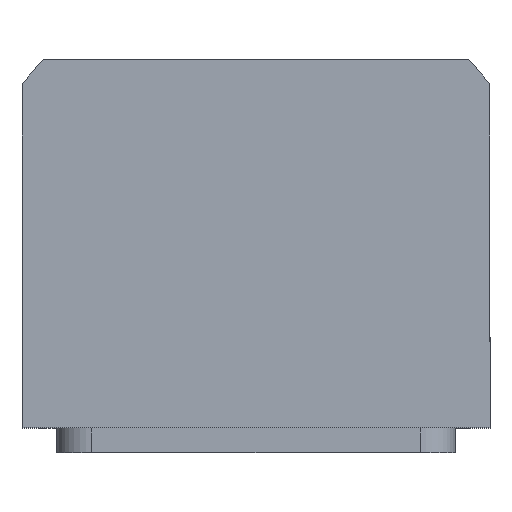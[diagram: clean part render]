
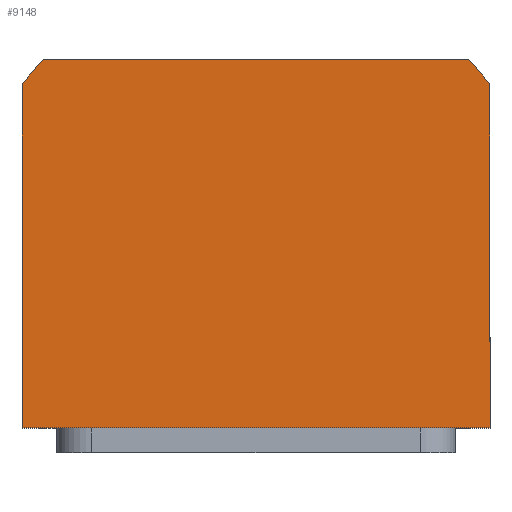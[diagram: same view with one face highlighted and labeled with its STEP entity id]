
A CAD part, top view. The second image highlights one B-rep face of the part: STEP entity #9148.
In plain terms, the highlighted planar face has unit normal (0, 0, 1).
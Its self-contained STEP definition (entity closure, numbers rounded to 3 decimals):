
#183 = VECTOR ( 'NONE', #7865, 1000. ) ;
#401 = ORIENTED_EDGE ( 'NONE', *, *, #8118, .T. ) ;
#681 = DIRECTION ( 'NONE',  ( 0., 0., 1. ) ) ;
#871 = DIRECTION ( 'NONE',  ( 1., 0., 0. ) ) ;
#978 = LINE ( 'NONE', #8531, #7534 ) ;
#1424 = CARTESIAN_POINT ( 'NONE',  ( -42.688, 40., 40. ) ) ;
#1755 = VECTOR ( 'NONE', #10960, 1000. ) ;
#1866 = EDGE_CURVE ( 'NONE', #8244, #5355, #9917, .T. ) ;
#2306 = AXIS2_PLACEMENT_3D ( 'NONE', #5014, #4187, #5126 ) ;
#2397 = ORIENTED_EDGE ( 'NONE', *, *, #1866, .T. ) ;
#2649 = EDGE_CURVE ( 'NONE', #5355, #5412, #8337, .T. ) ;
#2756 = VERTEX_POINT ( 'NONE', #6563 ) ;
#3038 = DIRECTION ( 'NONE',  ( 0., 1., 0. ) ) ;
#3222 = ORIENTED_EDGE ( 'NONE', *, *, #7901, .T. ) ;
#3408 = DIRECTION ( 'NONE',  ( 0., 0., 1. ) ) ;
#4187 = DIRECTION ( 'NONE',  ( 0., 0., 1. ) ) ;
#4327 = VECTOR ( 'NONE', #3038, 1000. ) ;
#4483 = ORIENTED_EDGE ( 'NONE', *, *, #2649, .T. ) ;
#4528 = AXIS2_PLACEMENT_3D ( 'NONE', #6642, #681, #5042 ) ;
#4762 = ORIENTED_EDGE ( 'NONE', *, *, #4925, .T. ) ;
#4787 = FACE_OUTER_BOUND ( 'NONE', #9088, .T. ) ;
#4925 = EDGE_CURVE ( 'NONE', #5412, #2756, #5240, .T. ) ;
#5014 = CARTESIAN_POINT ( 'NONE',  ( 0., 0., 40. ) ) ;
#5042 = DIRECTION ( 'NONE',  ( 1., 0., 0. ) ) ;
#5126 = DIRECTION ( 'NONE',  ( 1., 0., 0. ) ) ;
#5157 = VERTEX_POINT ( 'NONE', #5650 ) ;
#5240 = CIRCLE ( 'NONE', #2306, 58.5 ) ;
#5355 = VERTEX_POINT ( 'NONE', #10209 ) ;
#5412 = VERTEX_POINT ( 'NONE', #10323 ) ;
#5514 = AXIS2_PLACEMENT_3D ( 'NONE', #9411, #3408, #871 ) ;
#5601 = CARTESIAN_POINT ( 'NONE',  ( 47., 34.832, 40. ) ) ;
#5650 = CARTESIAN_POINT ( 'NONE',  ( -47., 34.832, 40. ) ) ;
#6078 = CARTESIAN_POINT ( 'NONE',  ( -47., -34., 40. ) ) ;
#6352 = ORIENTED_EDGE ( 'NONE', *, *, #8560, .T. ) ;
#6563 = CARTESIAN_POINT ( 'NONE',  ( 42.688, 40., 40. ) ) ;
#6642 = CARTESIAN_POINT ( 'NONE',  ( 0., 0., 40. ) ) ;
#6653 = CARTESIAN_POINT ( 'NONE',  ( -47., -34., 40. ) ) ;
#7360 = CARTESIAN_POINT ( 'NONE',  ( 47., -34., 40. ) ) ;
#7534 = VECTOR ( 'NONE', #11064, 1000. ) ;
#7865 = DIRECTION ( 'NONE',  ( 0., -1., 0. ) ) ;
#7901 = EDGE_CURVE ( 'NONE', #8971, #5157, #8358, .T. ) ;
#8118 = EDGE_CURVE ( 'NONE', #5157, #8244, #9811, .T. ) ;
#8244 = VERTEX_POINT ( 'NONE', #6653 ) ;
#8337 = LINE ( 'NONE', #5601, #4327 ) ;
#8358 = CIRCLE ( 'NONE', #4528, 58.5 ) ;
#8531 = CARTESIAN_POINT ( 'NONE',  ( -42.688, 40., 40. ) ) ;
#8560 = EDGE_CURVE ( 'NONE', #2756, #8971, #978, .T. ) ;
#8971 = VERTEX_POINT ( 'NONE', #1424 ) ;
#9088 = EDGE_LOOP ( 'NONE', ( #2397, #4483, #4762, #6352, #3222, #401 ) ) ;
#9148 = ADVANCED_FACE ( 'NONE', ( #4787 ), #11060, .T. ) ;
#9411 = CARTESIAN_POINT ( 'NONE',  ( 0., 0., 40. ) ) ;
#9811 = LINE ( 'NONE', #6078, #183 ) ;
#9917 = LINE ( 'NONE', #7360, #1755 ) ;
#10209 = CARTESIAN_POINT ( 'NONE',  ( 47., -34., 40. ) ) ;
#10323 = CARTESIAN_POINT ( 'NONE',  ( 47., 34.832, 40. ) ) ;
#10960 = DIRECTION ( 'NONE',  ( 1., 0., 0. ) ) ;
#11060 = PLANE ( 'NONE',  #5514 ) ;
#11064 = DIRECTION ( 'NONE',  ( -1., 0., 0. ) ) ;
